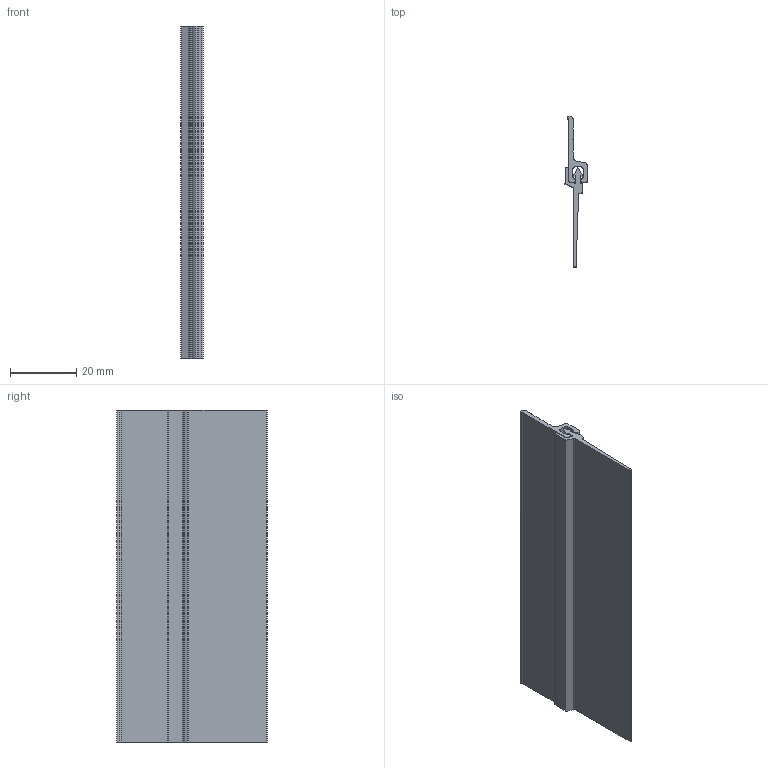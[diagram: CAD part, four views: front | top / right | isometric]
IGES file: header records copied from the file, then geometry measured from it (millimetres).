
Global section: file name: No Iges File Name specified; native system: Autodesk Inventor 2012; preprocessor: AutoDesk Inventor Iges Exporter R2012; author: anna.b; date: 20131114.145701; units: millimetre
Bounding box: 6.68 x 45.36 x 100 mm (x, y, z)
Volume: 8157.6 mm3; surface area: 13908.3 mm2
Topology: 2 solids, 2 shells, 75 faces, 213 edges, 142 vertices
Faces by surface type: plane 45, cylinder 15, revolution 15
